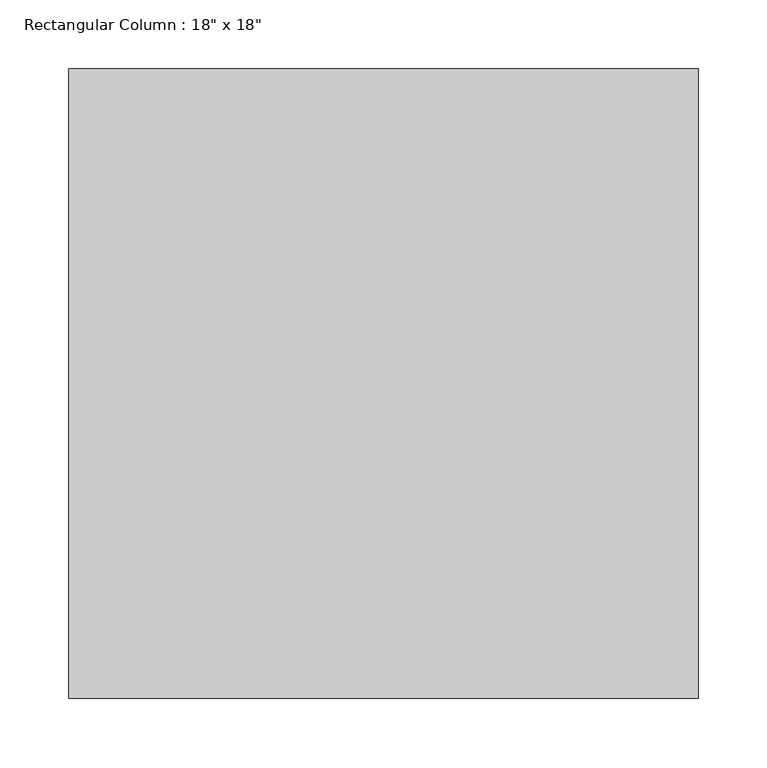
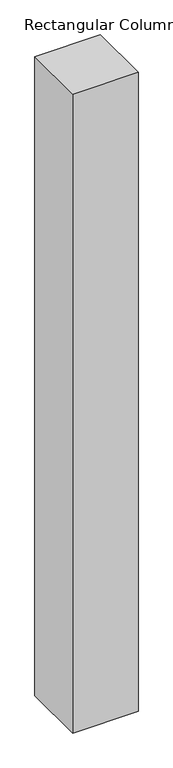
"""IFC4 building model written with IfcOpenShell, lengths in millimetres: column geometry."""

from ifc_helpers import new_model, si_unit, frame, origin, place, context, project, spatial, polyline, outline, extrude, source, transform, mapped, element, save


def column_f6efb254(model_context):
    return source(origin(), model_context, "Body", "SweptSolid", [
        extrude(outline(polyline([(228.6, 228.6), (228.6, -228.6), (-228.6, -228.6), (-228.6, 228.6), (228.6, 228.6)])), frame((0.0, 0.0, 5486.4), z_axis=(0.0, 0.0, 1.0), x_axis=(1.0, 0.0, 0.0)), (0.0, 0.0, 1.0), 4724.4),
    ])


if __name__ == "__main__":
    model = new_model("IFC4")
    model_context = context("Model", 3, world=origin())
    ifc_project = project(units=[si_unit("LENGTHUNIT", "METRE", prefix="MILLI")], contexts=[model_context])
    site = spatial("IfcSite", under=ifc_project)
    building = spatial("IfcBuilding", under=site)
    placement = place(None, origin())
    column_shape = column_f6efb254(model_context)
    element("IfcColumn", 1, ObjectType="Rectangular Column : 18\" x 18\"", at=placement, inside=building, context=model_context, shape_type="MappedRepresentation", body=[
        mapped(column_shape, transform((0.0, 0.0, 0.0), x_axis=(1.0, 0.0, 0.0), y_axis=(0.0, 1.0, 0.0), z_axis=(0.0, 0.0, 1.0))),
    ])
    save(model, "model.ifc")
